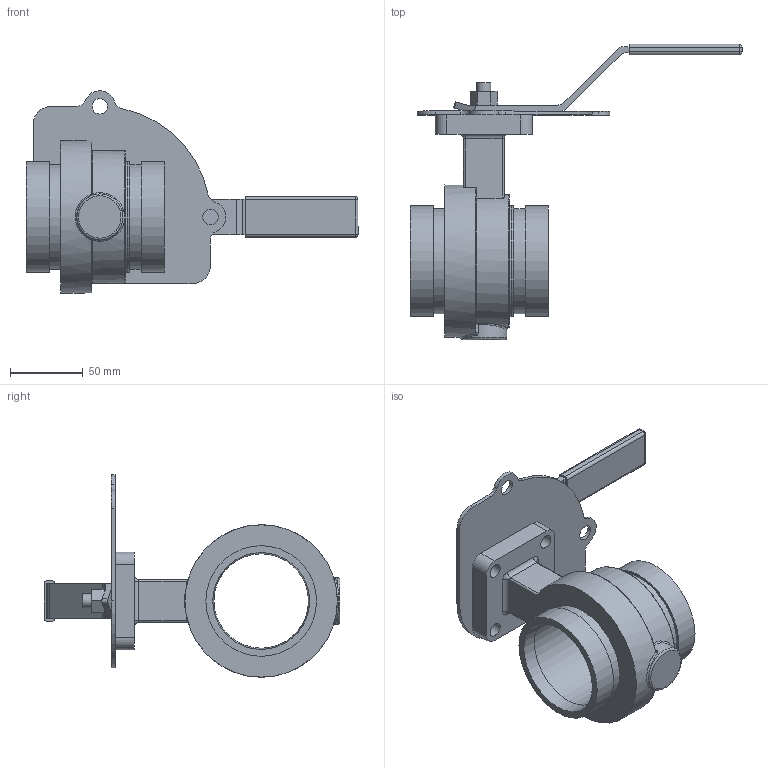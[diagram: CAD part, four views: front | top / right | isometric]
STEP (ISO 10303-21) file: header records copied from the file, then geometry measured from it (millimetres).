
FILE_DESCRIPTION(/* description */ ('Vic Series 461 Vic-300 SS w/ Lever Handle Butterfly Valve','CAx-IF Rec.Pracs.---Representation and Presentation of Product Manufacturing Information (PMI)---4.0---2014-10-13'),/* implementation_level */ '2;1');
FILE_NAME(/* name */ 'C:\Users\kkamble\AppData\Roaming\Autodesk\ApplicationPlugins\Back Up\Victaulic_SS-OGS_Valve Butterfly Vic-300 Masterseal Lever Handle_Series 461 (OGS)\Victaulic_SS-OGS_Valve Butterfly Vic-300 Masterseal Lever Handle_02.5 (76.1) (65).stp',/* time_stamp */ '2020-09-02T14:52:19+05:00',/* author */ ('jbrannon'),/* organization */ ('Victaulic'),/* preprocessor_version */ 'ST-DEVELOPER v17.2',/* originating_system */ 'Autodesk Inventor 2019',/* authorisation */ '');
FILE_SCHEMA (('CONFIG_CONTROL_DESIGN','AP242_MANAGED_MODEL_BASED_3D_ENGINEERING_MIM_LF { 1 0 10303 442 1 1 4 }'));
Length unit declared in the file: inch
Products named in the file (4): 461-02.5 (76.1); 461-02.5(76.1); 461-02.0; 461-02.5
Assembly tree (3 placements, depth 2):
  461-02.5 (76.1)
    461-02.5(76.1)
    461-02.0
    461-02.5
Bounding box: 228.59 x 203.46 x 139.31 mm (x, y, z)
Volume: 395470.3 mm3; surface area: 115876.1 mm2
Topology: 3 solids, 3 shells, 156 faces, 389 edges, 247 vertices
Faces by surface type: cylinder 66, plane 53, bspline 16, torus 13, sphere 6, cone 2
Full cylindrical faces by diameter (mm): 9.652 x10, 10.668 x2, 18.288 x1, 54.102 x1, 65.024 x1, 72.263 x2, 76.2 x3, 91.44 x1, 104.902 x1
Entity records: 5572 total; most frequent: CARTESIAN_POINT 1429, DIRECTION 828, ORIENTED_EDGE 774, EDGE_CURVE 387, AXIS2_PLACEMENT_3D 329, VERTEX_POINT 247, EDGE_LOOP 192, CIRCLE 182
